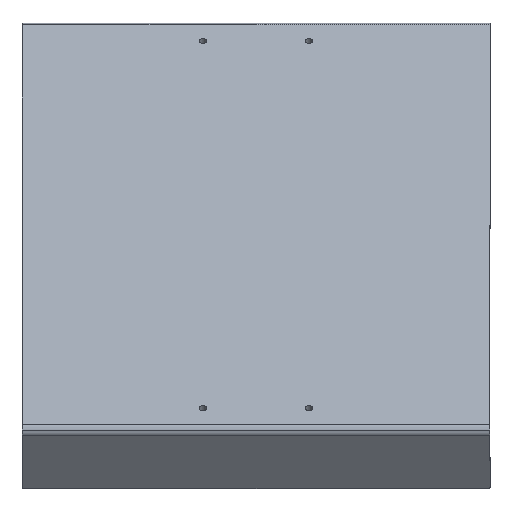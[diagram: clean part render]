
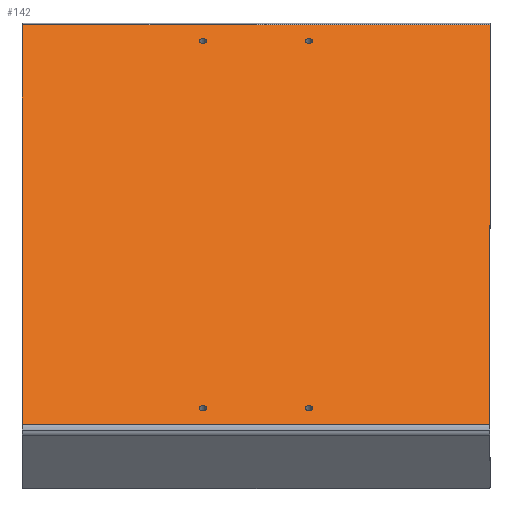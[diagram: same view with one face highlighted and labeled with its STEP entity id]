
A CAD part, left-side view. The second image highlights one B-rep face of the part: STEP entity #142.
In plain terms, the highlighted planar face has unit normal (-0.643, 0, 0.766).
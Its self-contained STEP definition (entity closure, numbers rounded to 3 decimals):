
#59=CARTESIAN_POINT('',(122.451,2420.5,1168.119));
#60=DIRECTION('',(-0.643,0.,0.766));
#61=DIRECTION('',(0.,1.,0.));
#62=AXIS2_PLACEMENT_3D('',#59,#60,#61);
#63=PLANE('',#62);
#64=CARTESIAN_POINT('',(141.985,3196.5,1184.51));
#65=VERTEX_POINT('',#64);
#66=CARTESIAN_POINT('',(140.07,3196.5,1182.903));
#67=DIRECTION('',(-0.643,0.,0.766));
#68=DIRECTION('',(0.766,0.,0.643));
#69=AXIS2_PLACEMENT_3D('',#66,#67,#68);
#70=CIRCLE('',#69,2.5);
#71=EDGE_CURVE('',#65,#65,#70,.T.);
#72=ORIENTED_EDGE('',*,*,#71,.F.);
#73=EDGE_LOOP('',(#72));
#74=FACE_BOUND('',#73,.T.);
#75=CARTESIAN_POINT('',(141.985,3128.5,1184.51));
#76=VERTEX_POINT('',#75);
#77=CARTESIAN_POINT('',(140.07,3128.5,1182.903));
#78=DIRECTION('',(-0.643,0.,0.766));
#79=DIRECTION('',(0.766,0.,0.643));
#80=AXIS2_PLACEMENT_3D('',#77,#78,#79);
#81=CIRCLE('',#80,2.5);
#82=EDGE_CURVE('',#76,#76,#81,.T.);
#83=ORIENTED_EDGE('',*,*,#82,.F.);
#84=EDGE_LOOP('',(#83));
#85=FACE_BOUND('',#84,.T.);
#86=CARTESIAN_POINT('',(-138.433,3128.5,949.211));
#87=VERTEX_POINT('',#86);
#88=CARTESIAN_POINT('',(-140.348,3128.5,947.604));
#89=DIRECTION('',(-0.643,0.,0.766));
#90=DIRECTION('',(0.766,0.,0.643));
#91=AXIS2_PLACEMENT_3D('',#88,#89,#90);
#92=CIRCLE('',#91,2.5);
#93=EDGE_CURVE('',#87,#87,#92,.T.);
#94=ORIENTED_EDGE('',*,*,#93,.F.);
#95=EDGE_LOOP('',(#94));
#96=FACE_BOUND('',#95,.T.);
#97=CARTESIAN_POINT('',(-138.433,3196.5,949.211));
#98=VERTEX_POINT('',#97);
#99=CARTESIAN_POINT('',(-140.348,3196.5,947.604));
#100=DIRECTION('',(-0.643,0.,0.766));
#101=DIRECTION('',(0.766,0.,0.643));
#102=AXIS2_PLACEMENT_3D('',#99,#100,#101);
#103=CIRCLE('',#102,2.5);
#104=EDGE_CURVE('',#98,#98,#103,.T.);
#105=ORIENTED_EDGE('',*,*,#104,.F.);
#106=EDGE_LOOP('',(#105));
#107=FACE_BOUND('',#106,.T.);
#108=CARTESIAN_POINT('',(152.327,3312.5,1193.188));
#109=VERTEX_POINT('',#108);
#110=CARTESIAN_POINT('',(-152.559,3312.5,937.358));
#111=VERTEX_POINT('',#110);
#112=CARTESIAN_POINT('',(152.327,3312.5,1193.188));
#113=DIRECTION('',(-0.766,0.,-0.643));
#114=VECTOR('',#113,398.);
#115=LINE('',#112,#114);
#116=EDGE_CURVE('',#109,#111,#115,.T.);
#117=ORIENTED_EDGE('',*,*,#116,.T.);
#118=CARTESIAN_POINT('',(-152.559,3012.5,937.358));
#119=VERTEX_POINT('',#118);
#120=CARTESIAN_POINT('',(-152.559,3312.5,937.358));
#121=DIRECTION('',(-0.,-1.,-0.));
#122=VECTOR('',#121,300.);
#123=LINE('',#120,#122);
#124=EDGE_CURVE('',#111,#119,#123,.T.);
#125=ORIENTED_EDGE('',*,*,#124,.T.);
#126=CARTESIAN_POINT('',(152.327,3012.5,1193.188));
#127=VERTEX_POINT('',#126);
#128=CARTESIAN_POINT('',(152.327,3012.5,1193.188));
#129=DIRECTION('',(-0.766,0.,-0.643));
#130=VECTOR('',#129,398.);
#131=LINE('',#128,#130);
#132=EDGE_CURVE('',#127,#119,#131,.T.);
#133=ORIENTED_EDGE('',*,*,#132,.F.);
#134=CARTESIAN_POINT('',(152.327,3012.5,1193.188));
#135=DIRECTION('',(0.,1.,0.));
#136=VECTOR('',#135,300.);
#137=LINE('',#134,#136);
#138=EDGE_CURVE('',#127,#109,#137,.T.);
#139=ORIENTED_EDGE('',*,*,#138,.T.);
#140=EDGE_LOOP('',(#117,#125,#133,#139));
#141=FACE_BOUND('',#140,.T.);
#142=ADVANCED_FACE('',(#74,#85,#96,#107,#141),#63,.T.);
